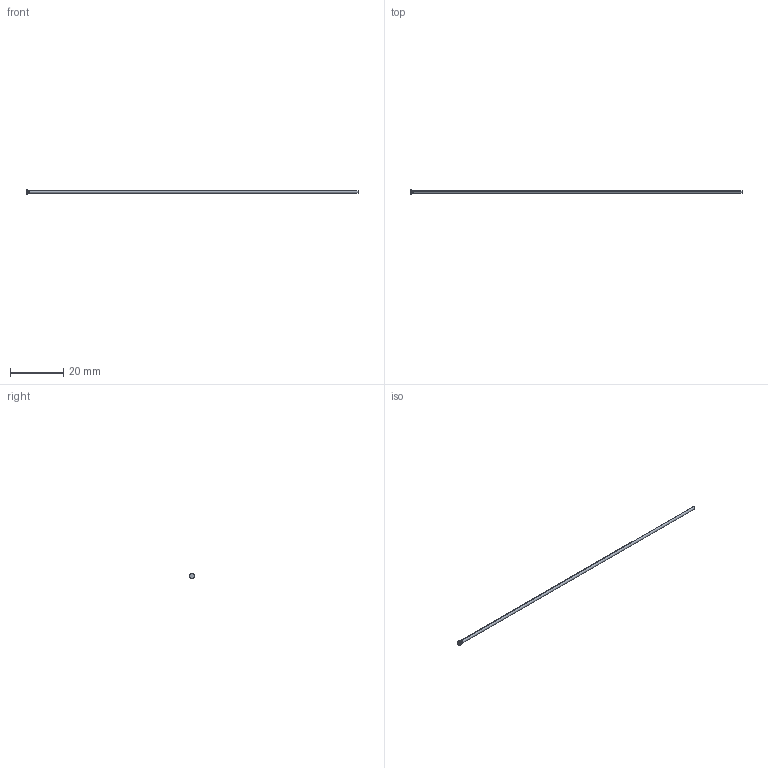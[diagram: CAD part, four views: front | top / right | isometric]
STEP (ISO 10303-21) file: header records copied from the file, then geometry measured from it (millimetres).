
FILE_DESCRIPTION (( 'STEP AP214' ), '1' );
FILE_NAME ('D-1,1x125.STEP', '2020-06-08T09:13:36', ( 'August' ), ( '' ), 'SwSTEP 2.0', 'SolidWorks 2018', '' );
FILE_SCHEMA (( 'AUTOMOTIVE_DESIGN' ));
Length unit declared in the file: millimetre
Products named in the file (1): D-1,1x125
Bounding box: 125 x 1.8 x 1.8 mm (x, y, z)
Volume: 120.1 mm3; surface area: 437.7 mm2
Topology: 1 solids, 1 shells, 10 faces, 18 edges, 10 vertices
Faces by surface type: cylinder 4, torus 2, cone 2, plane 2
Entity records: 280 total; most frequent: DIRECTION 52, CARTESIAN_POINT 39, ORIENTED_EDGE 36, AXIS2_PLACEMENT_3D 23, EDGE_CURVE 18, CIRCLE 12, ADVANCED_FACE 10, VERTEX_POINT 10
